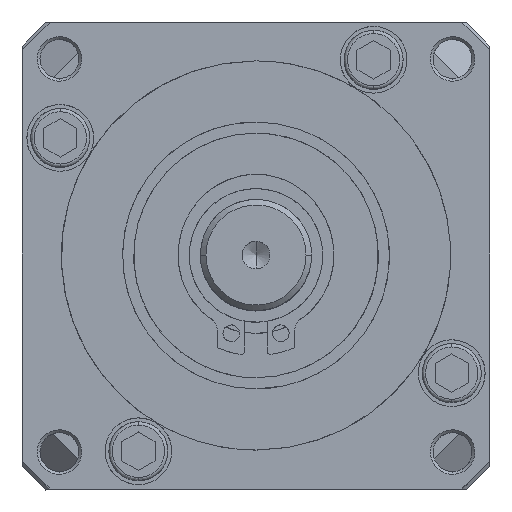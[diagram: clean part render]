
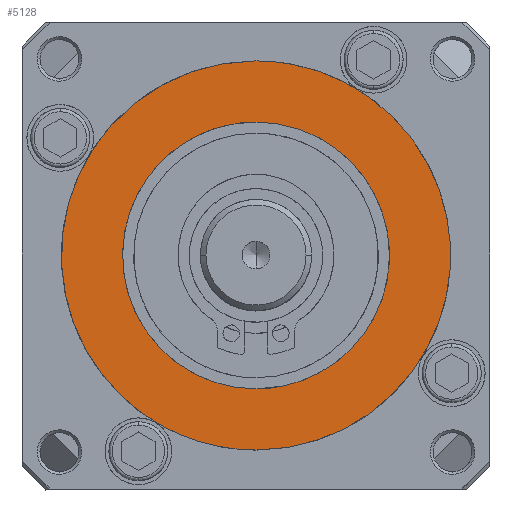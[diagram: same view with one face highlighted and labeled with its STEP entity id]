
A CAD part, top view. The second image highlights one B-rep face of the part: STEP entity #5128.
In plain terms, the highlighted free-form (B-spline) face has degree [1, 1] with [2, 2] control points.
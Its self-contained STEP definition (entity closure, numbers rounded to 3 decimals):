
#240 = CARTESIAN_POINT ( 'NONE',  ( 17.71, 14.887, 17.71 ) ) ;
#444 = CARTESIAN_POINT ( 'NONE',  ( 0., 14.887, 12. ) ) ;
#695 = EDGE_LOOP ( 'NONE', ( #13707, #12610 ) ) ;
#777 = CARTESIAN_POINT ( 'NONE',  ( 0., 14.887, -12. ) ) ;
#872 = EDGE_CURVE ( 'NONE', #4847, #16876, #9508, .T. ) ;
#1611 = CARTESIAN_POINT ( 'NONE',  ( -17.71, 14.887, -17.71 ) ) ;
#1619 = CARTESIAN_POINT ( 'NONE',  ( 0., 14.887, -12. ) ) ;
#1752 = CARTESIAN_POINT ( 'NONE',  ( 0., 14.887, 12. ) ) ;
#2530 = CARTESIAN_POINT ( 'NONE',  ( 0., 14.887, 17.5 ) ) ;
#2669 = CARTESIAN_POINT ( 'NONE',  ( -35., 14.887, 17.5 ) ) ;
#2977 = FACE_BOUND ( 'NONE', #14297, .T. ) ;
#3294 = EDGE_CURVE ( 'NONE', #11387, #16760, #14151, .T. ) ;
#3990 = CARTESIAN_POINT ( 'NONE',  ( 0., 14.887, -17.5 ) ) ;
#4016 = CARTESIAN_POINT ( 'NONE',  ( 10.251, 14.887, -17.5 ) ) ;
#4847 = VERTEX_POINT ( 'NONE', #1752 ) ;
#4956 = CARTESIAN_POINT ( 'NONE',  ( 12., 14.887, 7.029 ) ) ;
#5128 = ADVANCED_FACE ( 'NONE', ( #2977, #8502 ), #7215, .F. ) ;
#5380 = CARTESIAN_POINT ( 'NONE',  ( 17.5, 14.887, 10.251 ) ) ;
#5548 = CARTESIAN_POINT ( 'NONE',  ( 0., 14.887, 17.5 ) ) ;
#5910 = ORIENTED_EDGE ( 'NONE', *, *, #11733, .F. ) ;
#5990 = CARTESIAN_POINT ( 'NONE',  ( -24., 14.887, 12. ) ) ;
#6322 = CARTESIAN_POINT ( 'NONE',  ( 7.029, 14.887, -12. ) ) ;
#6907 = CARTESIAN_POINT ( 'NONE',  ( 0., 14.887, -17.5 ) ) ;
#7143 = CARTESIAN_POINT ( 'NONE',  ( 17.71, 14.887, -17.71 ) ) ;
#7215 = B_SPLINE_SURFACE_WITH_KNOTS ( 'NONE', 1, 1, ( 
 ( #1611, #7143 ),
 ( #12666, #240 ) ),
 .UNSPECIFIED., .F., .F., .F.,
 ( 2, 2 ),
 ( 2, 2 ),
 ( 0., 1. ),
 ( 0., 1. ),
 .UNSPECIFIED. ) ;
#8502 = FACE_OUTER_BOUND ( 'NONE', #695, .T. ) ;
#8591 = EDGE_CURVE ( 'NONE', #16760, #11387, #9940, .T. ) ;
#9508 =( BOUNDED_CURVE ( )  B_SPLINE_CURVE ( 3, ( #444, #5990, #11497, #17020 ),
 .UNSPECIFIED., .F., .F. ) 
 B_SPLINE_CURVE_WITH_KNOTS ( ( 4, 4 ),
 ( -3.142, 0. ),
 .UNSPECIFIED. ) 
 CURVE ( )  GEOMETRIC_REPRESENTATION_ITEM ( )  RATIONAL_B_SPLINE_CURVE ( ( 1., 0.333, 0.333, 1. ) ) 
 REPRESENTATION_ITEM ( '' )  );
#9533 = CARTESIAN_POINT ( 'NONE',  ( 0., 14.887, -17.5 ) ) ;
#9940 =( BOUNDED_CURVE ( )  B_SPLINE_CURVE ( 3, ( #6907, #12423, #2669, #5548 ),
 .UNSPECIFIED., .F., .F. ) 
 B_SPLINE_CURVE_WITH_KNOTS ( ( 4, 4 ),
 ( -3.142, 0. ),
 .UNSPECIFIED. ) 
 CURVE ( )  GEOMETRIC_REPRESENTATION_ITEM ( )  RATIONAL_B_SPLINE_CURVE ( ( 1., 0.333, 0.333, 1. ) ) 
 REPRESENTATION_ITEM ( '' )  );
#10482 = CARTESIAN_POINT ( 'NONE',  ( 7.029, 14.887, 12. ) ) ;
#10893 = CARTESIAN_POINT ( 'NONE',  ( 17.5, 14.887, 0. ) ) ;
#11387 = VERTEX_POINT ( 'NONE', #2530 ) ;
#11497 = CARTESIAN_POINT ( 'NONE',  ( -24., 14.887, -12. ) ) ;
#11733 = EDGE_CURVE ( 'NONE', #16876, #4847, #13327, .T. ) ;
#11829 = CARTESIAN_POINT ( 'NONE',  ( 12., 14.887, -7.029 ) ) ;
#12251 = CARTESIAN_POINT ( 'NONE',  ( 0., 14.887, 17.5 ) ) ;
#12423 = CARTESIAN_POINT ( 'NONE',  ( -35., 14.887, -17.5 ) ) ;
#12610 = ORIENTED_EDGE ( 'NONE', *, *, #3294, .F. ) ;
#12666 = CARTESIAN_POINT ( 'NONE',  ( -17.71, 14.887, 17.71 ) ) ;
#13327 =( BOUNDED_CURVE ( )  B_SPLINE_CURVE ( 3, ( #777, #6322, #11829, #17352, #4956, #10482, #15998 ),
 .UNSPECIFIED., .F., .F. ) 
 B_SPLINE_CURVE_WITH_KNOTS ( ( 4, 3, 4 ),
 ( -3.142, -1.571, 0. ),
 .UNSPECIFIED. ) 
 CURVE ( )  GEOMETRIC_REPRESENTATION_ITEM ( )  RATIONAL_B_SPLINE_CURVE ( ( 1., 0.805, 0.805, 1., 0.805, 0.805, 1. ) ) 
 REPRESENTATION_ITEM ( '' )  );
#13707 = ORIENTED_EDGE ( 'NONE', *, *, #8591, .F. ) ;
#14151 =( BOUNDED_CURVE ( )  B_SPLINE_CURVE ( 3, ( #12251, #17776, #5380, #10893, #16413, #4016, #9533 ),
 .UNSPECIFIED., .F., .F. ) 
 B_SPLINE_CURVE_WITH_KNOTS ( ( 4, 3, 4 ),
 ( -3.142, -1.571, 0. ),
 .UNSPECIFIED. ) 
 CURVE ( )  GEOMETRIC_REPRESENTATION_ITEM ( )  RATIONAL_B_SPLINE_CURVE ( ( 1., 0.805, 0.805, 1., 0.805, 0.805, 1. ) ) 
 REPRESENTATION_ITEM ( '' )  );
#14297 = EDGE_LOOP ( 'NONE', ( #5910, #15388 ) ) ;
#15388 = ORIENTED_EDGE ( 'NONE', *, *, #872, .F. ) ;
#15998 = CARTESIAN_POINT ( 'NONE',  ( 0., 14.887, 12. ) ) ;
#16413 = CARTESIAN_POINT ( 'NONE',  ( 17.5, 14.887, -10.251 ) ) ;
#16760 = VERTEX_POINT ( 'NONE', #3990 ) ;
#16876 = VERTEX_POINT ( 'NONE', #1619 ) ;
#17020 = CARTESIAN_POINT ( 'NONE',  ( 0., 14.887, -12. ) ) ;
#17352 = CARTESIAN_POINT ( 'NONE',  ( 12., 14.887, 0. ) ) ;
#17776 = CARTESIAN_POINT ( 'NONE',  ( 10.251, 14.887, 17.5 ) ) ;
